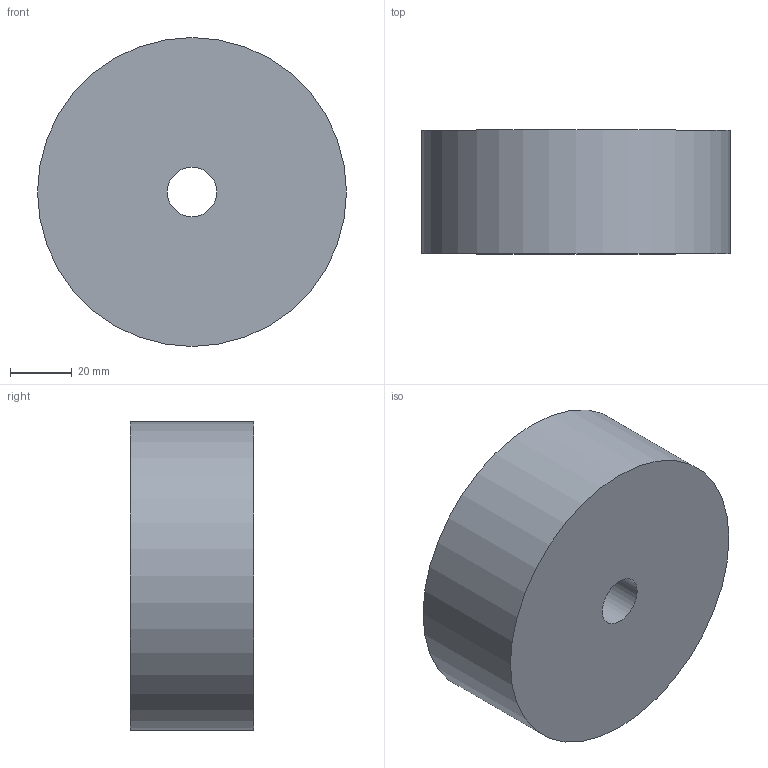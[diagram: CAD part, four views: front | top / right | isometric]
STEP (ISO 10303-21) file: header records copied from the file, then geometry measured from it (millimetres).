
FILE_DESCRIPTION(('Open CASCADE Model'),'2;1');
FILE_NAME('Open CASCADE Shape Model','2026-09-01T17:09:25',('Author'),( 'Open CASCADE'),'Open CASCADE STEP processor 7.9','Open CASCADE 7.9' ,'Unknown');
FILE_SCHEMA(('AUTOMOTIVE_DESIGN { 1 0 10303 214 1 1 1 1 }'));
Length unit declared in the file: millimetre
Products named in the file (1): Open CASCADE STEP translator 7.9 6
Bounding box: 100 x 40 x 100 mm (x, y, z)
Volume: 306116.8 mm3; surface area: 29882.8 mm2
Topology: 1 solids, 1 shells, 4 faces, 6 edges, 4 vertices
Faces by surface type: cylinder 2, plane 2
Full cylindrical faces by diameter (mm): 16 x1, 100 x1
Entity records: 186 total; most frequent: DIRECTION 32, CARTESIAN_POINT 27, ORIENTED_EDGE 12, PCURVE 12, DEFINITIONAL_REPRESENTATION 12, LINE 10, VECTOR 10, AXIS2_PLACEMENT_3D 9
